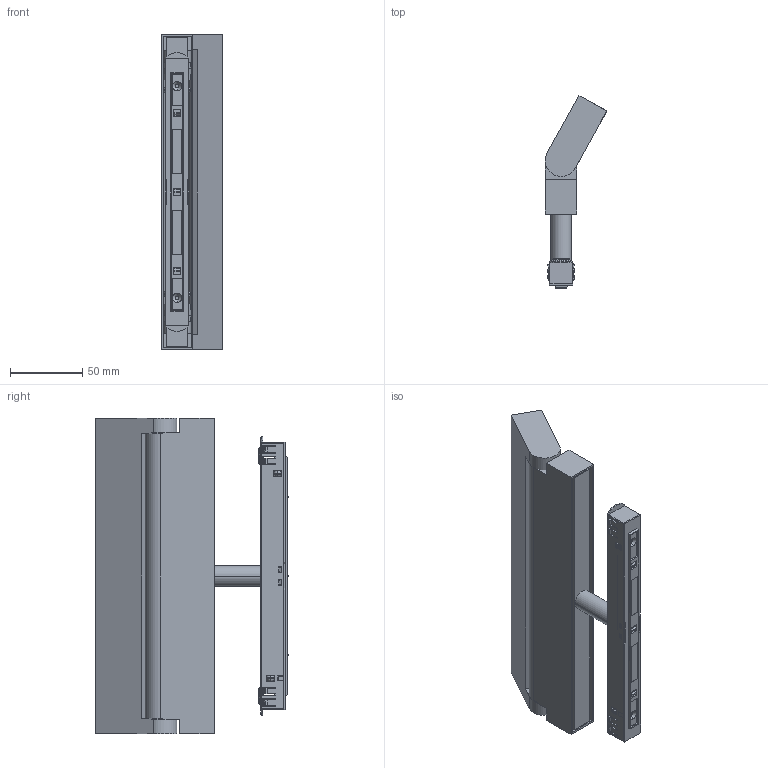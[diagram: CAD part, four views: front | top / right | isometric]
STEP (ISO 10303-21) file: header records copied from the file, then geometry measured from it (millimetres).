
FILE_DESCRIPTION (( 'STEP AP203' ), '1' );
FILE_NAME ('410088.STEP', '2025-04-02T01:58:10', ( '微软用户' ), ( '微软中国' ), 'SwSTEP 2.0', 'SolidWorks 2020', '' );
FILE_SCHEMA (( 'CONFIG_CONTROL_DESIGN' ));
Length unit declared in the file: millimetre
Products named in the file (19): 1432LVJIAN; MANIFOLD_SOLID_BREP_1155; ZHIJIA_2; MANIFOLD_SOLID_BREP_1145; MANIFOLD_SOLID_BREP_1156; ZHIJIA_0_; MANIFOLD_SOLID_BREP_1146; 10-07-WJ1; ZHIJIA_XIAGAI; MANIFOLD_SOLID_BREP_1147; 10-08-G1_1; MANIFOLD_SOLID_BREP_5218; MANIFOLD_SOLID_BREP_1148; 10-10-gk-2; MANIFOLD_SOLID_BREP_5198; MANIFOLD_SOLID_BREP_1149; 410088; ZUJIAN_TOUJING_12_ASM; MANIFOLD_SOLID_BREP_1150
Assembly tree (19 placements, depth 3):
  410088
    ZHIJIA_2
    ZHIJIA_0_
    ZHIJIA_XIAGAI
    ZUJIAN_TOUJING_12_ASM
      MANIFOLD_SOLID_BREP_5218
      MANIFOLD_SOLID_BREP_5198  x2
    1432LVJIAN
    10-10-gk-2
      MANIFOLD_SOLID_BREP_1145
      MANIFOLD_SOLID_BREP_1146
      MANIFOLD_SOLID_BREP_1147
      MANIFOLD_SOLID_BREP_1148
      MANIFOLD_SOLID_BREP_1149
      MANIFOLD_SOLID_BREP_1150
      MANIFOLD_SOLID_BREP_1155
      MANIFOLD_SOLID_BREP_1156
      10-07-WJ1
      10-08-G1_1
Bounding box: 42.63 x 133.24 x 218 mm (x, y, z)
Volume: 183420.3 mm3; surface area: 164786.8 mm2
Topology: 21 solids, 21 shells, 2488 faces, 6745 edges, 4350 vertices
Faces by surface type: plane 1744, cylinder 401, cone 229, bspline 114
Entity records: 87416 total; most frequent: CARTESIAN_POINT 32557, ORIENTED_EDGE 12018, DIRECTION 9134, EDGE_CURVE 6009, LINE 4112, VECTOR 4112, VERTEX_POINT 3882, AXIS2_PLACEMENT_3D 2511
